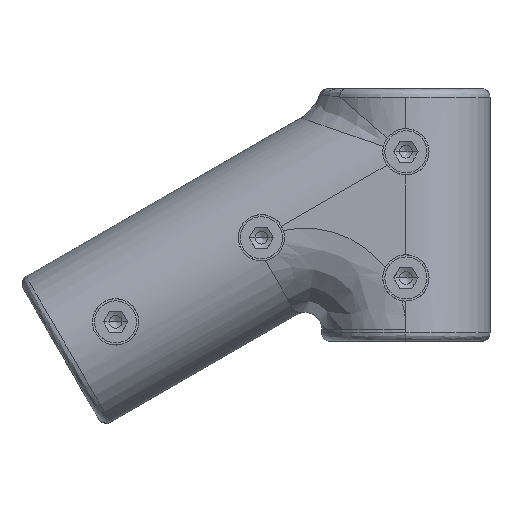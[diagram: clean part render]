
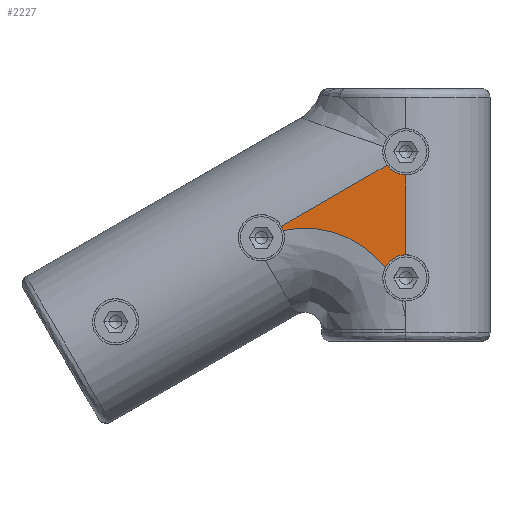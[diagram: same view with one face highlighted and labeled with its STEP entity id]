
A CAD part, top view. The second image highlights one B-rep face of the part: STEP entity #2227.
In plain terms, the highlighted planar face has unit normal (0, 0, 1).
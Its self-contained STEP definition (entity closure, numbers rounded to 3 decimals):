
#11 = CARTESIAN_POINT ( 'NONE',  ( -103.236, 26.66, 40. ) ) ;
#38 = CARTESIAN_POINT ( 'NONE',  ( -99.064, 23.36, 40. ) ) ;
#66 = CARTESIAN_POINT ( 'NONE',  ( -99.115, 23.411, 40. ) ) ;
#251 = DIRECTION ( 'NONE',  ( 0., 1., 0. ) ) ;
#269 = CIRCLE ( 'NONE', #7062, 5.5 ) ;
#455 = CIRCLE ( 'NONE', #2990, 5.5 ) ;
#481 = CARTESIAN_POINT ( 'NONE',  ( -91.908, 23.931, 40. ) ) ;
#611 = CARTESIAN_POINT ( 'NONE',  ( -117.893, 30.182, 40. ) ) ;
#639 = CARTESIAN_POINT ( 'NONE',  ( -120.531, 29.821, 40. ) ) ;
#663 = CARTESIAN_POINT ( 'NONE',  ( -96.848, 20.849, 40. ) ) ;
#680 = CARTESIAN_POINT ( 'NONE',  ( -91.908, 42.931, 40. ) ) ;
#685 = CARTESIAN_POINT ( 'NONE',  ( -102.397, 26.104, 40. ) ) ;
#716 = CARTESIAN_POINT ( 'NONE',  ( -117.26, 30.233, 40. ) ) ;
#795 = VERTEX_POINT ( 'NONE', #481 ) ;
#982 = DIRECTION ( 'NONE',  ( 0., 0., -1. ) ) ;
#1111 = CARTESIAN_POINT ( 'NONE',  ( -121.067, 29.703, 40. ) ) ;
#1515 = VECTOR ( 'NONE', #4686, 1000. ) ;
#1621 = PLANE ( 'NONE',  #3881 ) ;
#1629 = DIRECTION ( 'NONE',  ( 0., 0., -1. ) ) ;
#1735 = DIRECTION ( 'NONE',  ( 0., 0., 1. ) ) ;
#1819 = EDGE_CURVE ( 'NONE', #7753, #795, #269, .T. ) ;
#1917 = CARTESIAN_POINT ( 'NONE',  ( -105.392, 27.841, 40. ) ) ;
#1942 = CARTESIAN_POINT ( 'NONE',  ( -109.88, 29.524, 40. ) ) ;
#2206 = VERTEX_POINT ( 'NONE', #5942 ) ;
#2227 = ADVANCED_FACE ( 'NONE', ( #3841 ), #1621, .T. ) ;
#2352 = CARTESIAN_POINT ( 'NONE',  ( -96.848, 20.849, 40. ) ) ;
#2511 = CARTESIAN_POINT ( 'NONE',  ( -118.3, 30.145, 40. ) ) ;
#2542 = CARTESIAN_POINT ( 'NONE',  ( -97.514, 21.719, 40. ) ) ;
#2569 = CARTESIAN_POINT ( 'NONE',  ( -104.744, 27.51, 40. ) ) ;
#2592 = CARTESIAN_POINT ( 'NONE',  ( -111.587, 29.872, 40. ) ) ;
#2762 = EDGE_CURVE ( 'NONE', #3600, #2206, #7248, .T. ) ;
#2990 = AXIS2_PLACEMENT_3D ( 'NONE', #3508, #1629, #3591 ) ;
#3138 = CARTESIAN_POINT ( 'NONE',  ( -101.694, 25.602, 40. ) ) ;
#3144 = VERTEX_POINT ( 'NONE', #680 ) ;
#3188 = ORIENTED_EDGE ( 'NONE', *, *, #3762, .T. ) ;
#3189 = CARTESIAN_POINT ( 'NONE',  ( -101.985, 25.814, 40. ) ) ;
#3220 = CARTESIAN_POINT ( 'NONE',  ( -99.369, 23.656, 40. ) ) ;
#3247 = CARTESIAN_POINT ( 'NONE',  ( -113.867, 30.184, 40. ) ) ;
#3443 = EDGE_CURVE ( 'NONE', #3144, #2206, #455, .T. ) ;
#3508 = CARTESIAN_POINT ( 'NONE',  ( -91.908, 48.431, 40. ) ) ;
#3591 = DIRECTION ( 'NONE',  ( -1., 0., 0. ) ) ;
#3595 = CARTESIAN_POINT ( 'NONE',  ( -91.908, 18.431, 40. ) ) ;
#3600 = VERTEX_POINT ( 'NONE', #6329 ) ;
#3602 = VERTEX_POINT ( 'NONE', #6812 ) ;
#3682 = ORIENTED_EDGE ( 'NONE', *, *, #2762, .F. ) ;
#3746 = CARTESIAN_POINT ( 'NONE',  ( -148.943, 14.904, 40. ) ) ;
#3762 = EDGE_CURVE ( 'NONE', #3600, #3602, #4923, .T. ) ;
#3767 = CARTESIAN_POINT ( 'NONE',  ( -99.217, 23.509, 40. ) ) ;
#3799 = CARTESIAN_POINT ( 'NONE',  ( -106.312, 28.276, 40. ) ) ;
#3834 = CARTESIAN_POINT ( 'NONE',  ( -113.007, 30.1, 40. ) ) ;
#3841 = FACE_OUTER_BOUND ( 'NONE', #5631, .T. ) ;
#3863 = CARTESIAN_POINT ( 'NONE',  ( -100.465, 24.65, 40. ) ) ;
#3881 = AXIS2_PLACEMENT_3D ( 'NONE', #7374, #1735, #4289 ) ;
#3889 = CARTESIAN_POINT ( 'NONE',  ( -107.12, 28.605, 40. ) ) ;
#4233 = CARTESIAN_POINT ( 'NONE',  ( -91.908, 24.304, 40. ) ) ;
#4289 = DIRECTION ( 'NONE',  ( 1., 0., 0. ) ) ;
#4345 = B_SPLINE_CURVE_WITH_KNOTS ( 'NONE', 3,
 ( #1111, #639, #5776, #8230, #2511, #6940, #4480, #611, #716, #5067, #4503, #7641, #7616, #7052, #6424, #3247, #3834, #5724, #2592, #4456, #5746, #1942, #5086, #3889, #3799, #1917, #6368, #2569, #6394, #7002, #11, #685, #3189, #5694, #3138, #7689, #7027, #3863, #5141, #3220, #3767, #66, #38, #7665, #2542, #663 ),
 .UNSPECIFIED., .F., .F.,
 ( 4, 1, 1, 1, 2, 2, 1, 1, 1, 2, 2, 1, 1, 2, 2, 2, 1, 1, 2, 2, 1, 1, 1, 2, 2, 1, 1, 1, 2, 2, 4 ),
 ( 0., 0.062, 0.094, 0.109, 0.117, 0.125, 0.187, 0.219, 0.234, 0.242, 0.25, 0.312, 0.344, 0.359, 0.375, 0.5, 0.562, 0.594, 0.609, 0.625, 0.687, 0.719, 0.734, 0.742, 0.75, 0.813, 0.844, 0.859, 0.867, 0.875, 1. ),
 .UNSPECIFIED. ) ;
#4399 = LINE ( 'NONE', #4233, #1515 ) ;
#4456 = CARTESIAN_POINT ( 'NONE',  ( -111.304, 29.819, 40. ) ) ;
#4480 = CARTESIAN_POINT ( 'NONE',  ( -117.959, 30.176, 40. ) ) ;
#4503 = CARTESIAN_POINT ( 'NONE',  ( -115.429, 30.262, 40. ) ) ;
#4686 = DIRECTION ( 'NONE',  ( 0., 1., 0. ) ) ;
#4923 = CIRCLE ( 'NONE', #5596, 5.5 ) ;
#5067 = CARTESIAN_POINT ( 'NONE',  ( -116.415, 30.27, 40. ) ) ;
#5086 = CARTESIAN_POINT ( 'NONE',  ( -108.762, 29.205, 40. ) ) ;
#5141 = CARTESIAN_POINT ( 'NONE',  ( -99.729, 23.994, 40. ) ) ;
#5250 = VECTOR ( 'NONE', #6944, 1000. ) ;
#5305 = ORIENTED_EDGE ( 'NONE', *, *, #5945, .T. ) ;
#5378 = EDGE_CURVE ( 'NONE', #3602, #7753, #4345, .T. ) ;
#5596 = AXIS2_PLACEMENT_3D ( 'NONE', #6032, #6629, #251 ) ;
#5631 = EDGE_LOOP ( 'NONE', ( #5815, #5305, #8147, #3682, #3188, #6466 ) ) ;
#5694 = CARTESIAN_POINT ( 'NONE',  ( -101.81, 25.687, 40. ) ) ;
#5724 = CARTESIAN_POINT ( 'NONE',  ( -112.012, 29.949, 40. ) ) ;
#5746 = CARTESIAN_POINT ( 'NONE',  ( -111.164, 29.791, 40. ) ) ;
#5776 = CARTESIAN_POINT ( 'NONE',  ( -119.725, 29.97, 40. ) ) ;
#5815 = ORIENTED_EDGE ( 'NONE', *, *, #1819, .T. ) ;
#5942 = CARTESIAN_POINT ( 'NONE',  ( -96.391, 45.245, 40. ) ) ;
#5945 = EDGE_CURVE ( 'NONE', #795, #3144, #4399, .T. ) ;
#6032 = CARTESIAN_POINT ( 'NONE',  ( -126.29, 27.983, 40. ) ) ;
#6066 = DIRECTION ( 'NONE',  ( -1., 0., 0. ) ) ;
#6329 = CARTESIAN_POINT ( 'NONE',  ( -121.527, 30.733, 40. ) ) ;
#6368 = CARTESIAN_POINT ( 'NONE',  ( -105.003, 27.644, 40. ) ) ;
#6394 = CARTESIAN_POINT ( 'NONE',  ( -104.614, 27.441, 40. ) ) ;
#6424 = CARTESIAN_POINT ( 'NONE',  ( -114.514, 30.224, 40. ) ) ;
#6466 = ORIENTED_EDGE ( 'NONE', *, *, #5378, .T. ) ;
#6629 = DIRECTION ( 'NONE',  ( 0., 0., -1. ) ) ;
#6812 = CARTESIAN_POINT ( 'NONE',  ( -121.067, 29.703, 40. ) ) ;
#6940 = CARTESIAN_POINT ( 'NONE',  ( -118.096, 30.164, 40. ) ) ;
#6944 = DIRECTION ( 'NONE',  ( 0.866, 0.5, 0. ) ) ;
#7002 = CARTESIAN_POINT ( 'NONE',  ( -103.98, 27.098, 40. ) ) ;
#7027 = CARTESIAN_POINT ( 'NONE',  ( -101.125, 25.179, 40. ) ) ;
#7052 = CARTESIAN_POINT ( 'NONE',  ( -114.583, 30.228, 40. ) ) ;
#7062 = AXIS2_PLACEMENT_3D ( 'NONE', #3595, #982, #6066 ) ;
#7248 = LINE ( 'NONE', #3746, #5250 ) ;
#7374 = CARTESIAN_POINT ( 'NONE',  ( -121.066, 24.304, 40. ) ) ;
#7616 = CARTESIAN_POINT ( 'NONE',  ( -114.724, 30.235, 40. ) ) ;
#7641 = CARTESIAN_POINT ( 'NONE',  ( -114.936, 30.245, 40. ) ) ;
#7665 = CARTESIAN_POINT ( 'NONE',  ( -98.237, 22.54, 40. ) ) ;
#7689 = CARTESIAN_POINT ( 'NONE',  ( -101.634, 25.558, 40. ) ) ;
#7753 = VERTEX_POINT ( 'NONE', #2352 ) ;
#8147 = ORIENTED_EDGE ( 'NONE', *, *, #3443, .T. ) ;
#8230 = CARTESIAN_POINT ( 'NONE',  ( -118.776, 30.095, 40. ) ) ;
